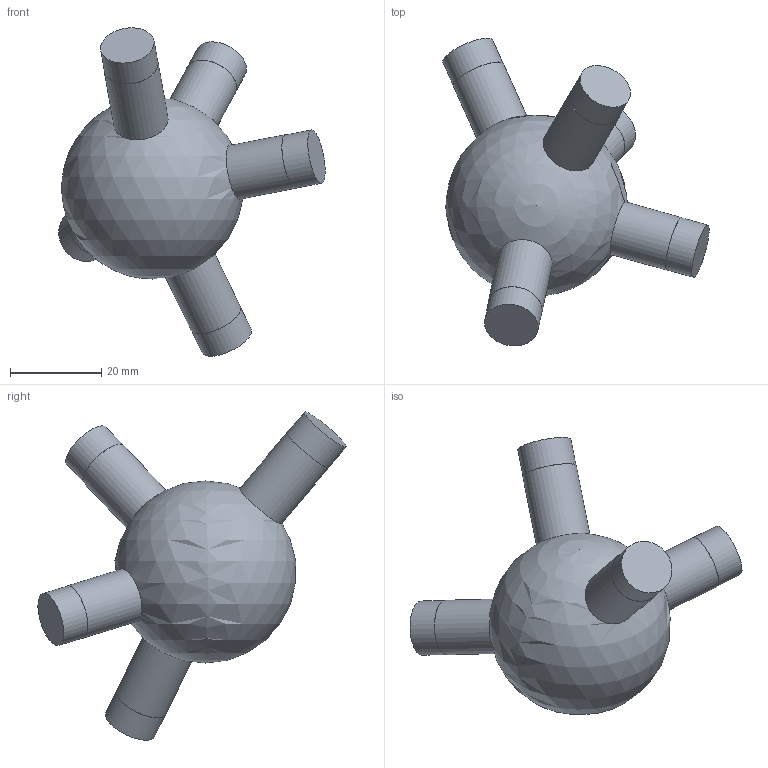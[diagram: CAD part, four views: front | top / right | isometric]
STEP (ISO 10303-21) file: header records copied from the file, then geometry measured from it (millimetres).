
FILE_DESCRIPTION(('Open CASCADE Model'),'2;1');
FILE_NAME('Open CASCADE Shape Model','2026-10-21T12:47:57',('Author'),( 'Open CASCADE'),'Open CASCADE STEP processor 7.9','Open CASCADE 7.9' ,'Unknown');
FILE_SCHEMA(('AUTOMOTIVE_DESIGN { 1 0 10303 214 1 1 1 1 }'));
Length unit declared in the file: millimetre
Products named in the file (1): Open CASCADE STEP translator 7.9 37
Bounding box: 58.5 x 67.69 x 72.15 mm (x, y, z)
Volume: 44980.1 mm3; surface area: 8933.3 mm2
Topology: 1 solids, 1 shells, 21 faces, 35 edges, 24 vertices
Faces by surface type: cylinder 10, plane 10, sphere 1
Full cylindrical faces by diameter (mm): 11.9 x5, 12 x5
Entity records: 1274 total; most frequent: CARTESIAN_POINT 480, DIRECTION 163, ORIENTED_EDGE 68, PCURVE 68, DEFINITIONAL_REPRESENTATION 68, LINE 56, VECTOR 56, AXIS2_PLACEMENT_3D 46
